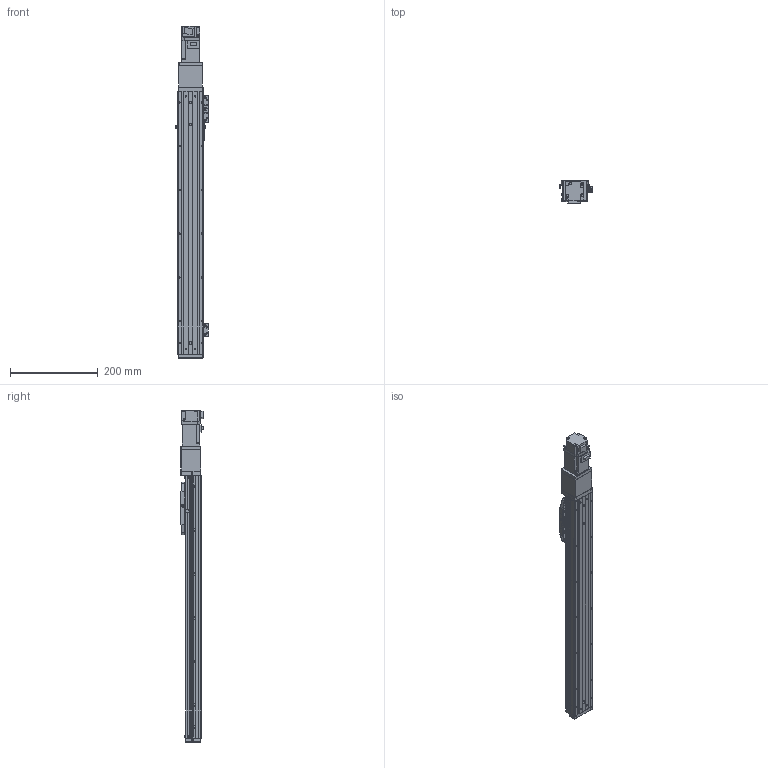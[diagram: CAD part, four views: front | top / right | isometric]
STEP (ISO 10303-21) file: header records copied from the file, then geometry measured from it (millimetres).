
FILE_DESCRIPTION (( 'STEP AP203' ), '1' );
FILE_NAME ('CTHA50-450-BC-M10-C4L.step', '2022-03-19T05:56:32', ( '微软用户' ), ( '微软中国' ), 'SwSTEP 2.0', 'SolidWorks 2020', '' );
FILE_SCHEMA (( 'CONFIG_CONTROL_DESIGN' ));
Length unit declared in the file: millimetre
Products named in the file (20): GB¨uT 70.2-M3¡Á6_M3¡Á6; CTHA60-021; CTHA50-030; EE_SX911P_R; CTHA50-027; CTHA50-031; CTHA50-002; GBT77-2000 M3×3; CTHA50-006-2_CTHA60-006-2; CTHA50-450-BC-M10-C4L; GBT 70.1-M3℅6; CTHA50-013; KTHA50-001_600; CTHA60-017; HG-KR13（三菱）; KTHA50-004; GBT 70.1-M4×12; GBT 70.3-M3℅6; KTHA50-005; CTHA60-016
Assembly tree (59 placements, depth 2):
  CTHA50-450-BC-M10-C4L
    KTHA50-001_600
    KTHA50-004
    KTHA50-005
    GB¨uT 70.2-M3¡Á6_M3¡Á6  x10
    EE_SX911P_R  x3
    GBT77-2000 M3×3  x6
    GBT 70.1-M3℅6  x6
    CTHA60-017  x3
    GBT 70.1-M4×12  x10
    CTHA60-016  x2
    CTHA60-021  x2
    CTHA50-027
    CTHA50-006-2_CTHA60-006-2
    CTHA50-013
    HG-KR13（三菱）
    GBT 70.3-M3℅6  x6
    CTHA50-002
    CTHA50-030  x2
    CTHA50-031
Bounding box: 74.12 x 53.3 x 758.6 mm (x, y, z)
Volume: 1234349.5 mm3; surface area: 333432.1 mm2
Topology: 61 solids, 61 shells, 2436 faces, 5794 edges, 3546 vertices
Faces by surface type: plane 1402, cylinder 550, cone 364, torus 96, sphere 24
Entity records: 39990 total; most frequent: CARTESIAN_POINT 6451, DIRECTION 6410, ORIENTED_EDGE 6156, EDGE_CURVE 3078, LINE 2246, VECTOR 2246, AXIS2_PLACEMENT_3D 2082, VERTEX_POINT 1939
